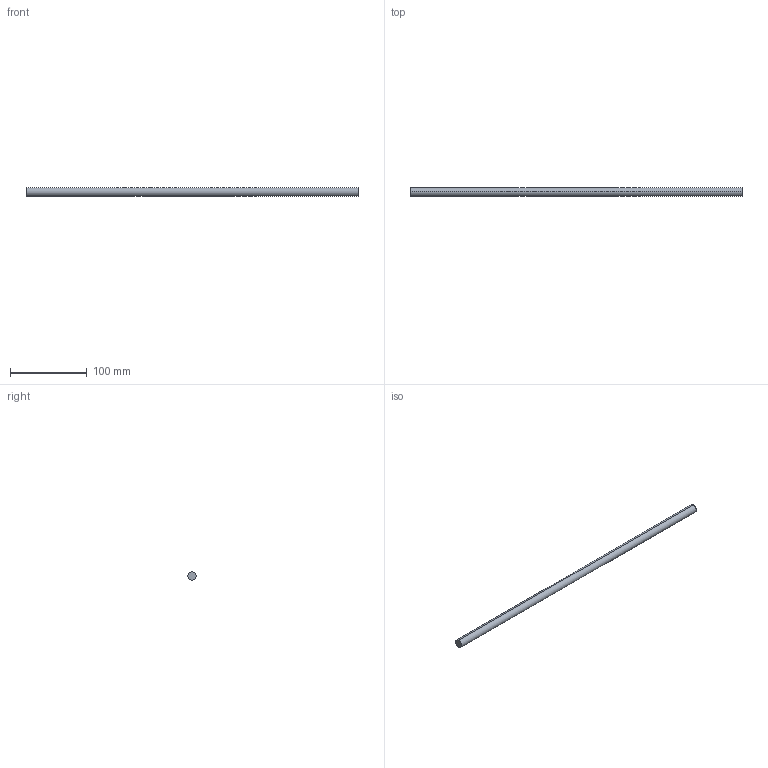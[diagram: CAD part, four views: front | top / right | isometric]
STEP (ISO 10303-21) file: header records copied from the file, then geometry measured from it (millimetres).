
FILE_DESCRIPTION (( 'STEP AP214' ), '1' );
FILE_NAME ('Querreling_Frontblende_Innenlade_KS-19_25mm-Halter_KAB-550.step', '2010-09-22T15:05:45', ( 'grass' ), ( '' ), 'SwSTEP 2.0', 'SolidWorks 2010', '' );
FILE_SCHEMA (( 'AUTOMOTIVE_DESIGN' ));
Length unit declared in the file: millimetre
Products named in the file (1): Querreling_Frontblende_Innenlade_KS-19_25mm-Halter_KAB-550
Bounding box: 434 x 11 x 11 mm (x, y, z)
Volume: 41244.4 mm3; surface area: 15188 mm2
Topology: 1 solids, 1 shells, 4 faces, 6 edges, 4 vertices
Faces by surface type: cylinder 2, plane 2
Entity records: 128 total; most frequent: DIRECTION 20, CARTESIAN_POINT 15, ORIENTED_EDGE 12, AXIS2_PLACEMENT_3D 9, EDGE_CURVE 6, VERTEX_POINT 4, FACE_OUTER_BOUND 4, CIRCLE 4
